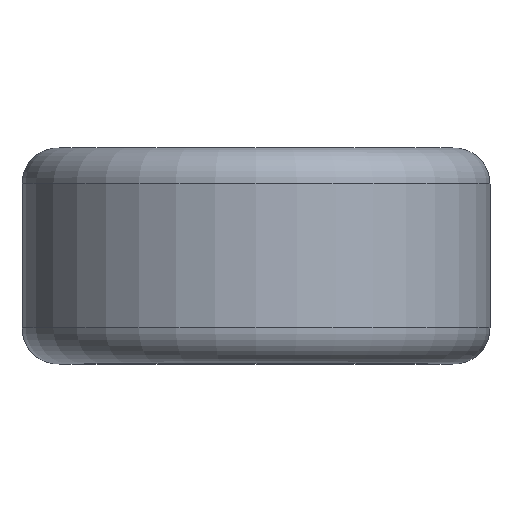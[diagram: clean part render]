
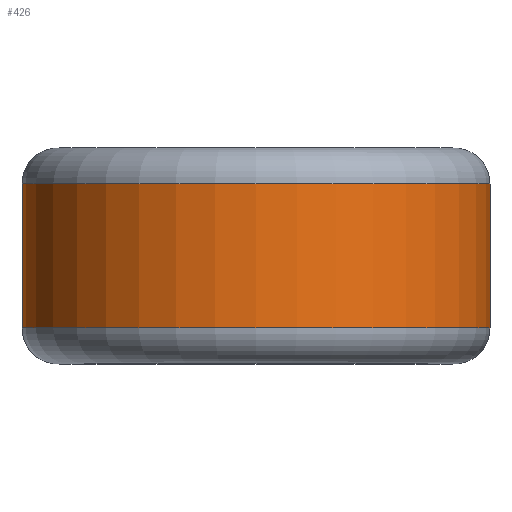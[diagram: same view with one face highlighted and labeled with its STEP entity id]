
A CAD part, top view. The second image highlights one B-rep face of the part: STEP entity #426.
In plain terms, the highlighted cylindrical face has radius 6.5 mm (diameter 13 mm), a full revolution.
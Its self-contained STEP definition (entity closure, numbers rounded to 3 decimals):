
#21=FACE_BOUND('',#104,.T.);
#22=FACE_BOUND('',#105,.T.);
#46=LINE('',#1616,#51);
#51=VECTOR('',#584,6.5);
#60=CYLINDRICAL_SURFACE('',#486,6.5);
#75=FACE_OUTER_BOUND('',#103,.T.);
#103=EDGE_LOOP('',(#329,#330,#331,#332,#333,#334,#335,#336));
#104=EDGE_LOOP('',(#337));
#105=EDGE_LOOP('',(#338));
#137=CIRCLE('',#487,6.5);
#138=CIRCLE('',#488,6.5);
#139=CIRCLE('',#489,6.5);
#140=CIRCLE('',#490,6.5);
#141=CIRCLE('',#491,6.5);
#142=CIRCLE('',#492,6.5);
#170=B_SPLINE_CURVE_WITH_KNOTS('',3,(#866,#867,#868,#869,#870,#871,#872,
#873,#874,#875,#876,#877,#878,#879,#880,#881,#882,#883),.UNSPECIFIED.,.T.,
 .F.,(4,1,1,1,1,1,1,1,1,1,1,1,1,1,1,4),(-0.344,-0.305,
-0.286,-0.266,-0.261,-0.256,
-0.247,-0.227,-0.208,-0.188,
-0.168,-0.149,-0.129,-0.11,
-0.09,-0.071),.UNSPECIFIED.);
#173=B_SPLINE_CURVE_WITH_KNOTS('',3,(#1623,#1624,#1625,#1626,#1627,#1628,
#1629,#1630,#1631,#1632,#1633,#1634,#1635,#1636,#1637),.UNSPECIFIED.,.T.,
 .F.,(4,1,1,1,1,1,1,1,1,1,1,1,4),(-0.325,-0.305,
-0.285,-0.266,-0.246,-0.227,
-0.207,-0.168,-0.129,-0.11,
-0.09,-0.081,-0.051),
 .UNSPECIFIED.);
#194=VERTEX_POINT('',#840);
#198=VERTEX_POINT('',#1609);
#199=VERTEX_POINT('',#1610);
#200=VERTEX_POINT('',#1612);
#201=VERTEX_POINT('',#1615);
#202=VERTEX_POINT('',#1617);
#203=VERTEX_POINT('',#1619);
#204=VERTEX_POINT('',#1622);
#245=EDGE_CURVE('',#194,#194,#170,.T.);
#248=EDGE_CURVE('',#198,#199,#137,.T.);
#249=EDGE_CURVE('',#200,#198,#138,.T.);
#250=EDGE_CURVE('',#199,#200,#139,.T.);
#251=EDGE_CURVE('',#199,#201,#46,.T.);
#252=EDGE_CURVE('',#202,#201,#140,.T.);
#253=EDGE_CURVE('',#203,#202,#141,.T.);
#254=EDGE_CURVE('',#201,#203,#142,.T.);
#255=EDGE_CURVE('',#204,#204,#173,.T.);
#329=ORIENTED_EDGE('',*,*,#248,.F.);
#330=ORIENTED_EDGE('',*,*,#249,.F.);
#331=ORIENTED_EDGE('',*,*,#250,.F.);
#332=ORIENTED_EDGE('',*,*,#251,.T.);
#333=ORIENTED_EDGE('',*,*,#252,.F.);
#334=ORIENTED_EDGE('',*,*,#253,.F.);
#335=ORIENTED_EDGE('',*,*,#254,.F.);
#336=ORIENTED_EDGE('',*,*,#251,.F.);
#337=ORIENTED_EDGE('',*,*,#255,.F.);
#338=ORIENTED_EDGE('',*,*,#245,.F.);
#426=ADVANCED_FACE('',(#75,#21,#22),#60,.T.);
#486=AXIS2_PLACEMENT_3D('',#1608,#576,#577);
#487=AXIS2_PLACEMENT_3D('',#1611,#578,#579);
#488=AXIS2_PLACEMENT_3D('',#1613,#580,#581);
#489=AXIS2_PLACEMENT_3D('',#1614,#582,#583);
#490=AXIS2_PLACEMENT_3D('',#1618,#585,#586);
#491=AXIS2_PLACEMENT_3D('',#1620,#587,#588);
#492=AXIS2_PLACEMENT_3D('',#1621,#589,#590);
#576=DIRECTION('center_axis',(0.,-1.,0.));
#577=DIRECTION('ref_axis',(1.,0.,0.));
#578=DIRECTION('center_axis',(0.,-1.,0.));
#579=DIRECTION('ref_axis',(-1.,0.,0.));
#580=DIRECTION('center_axis',(0.,-1.,0.));
#581=DIRECTION('ref_axis',(-1.,0.,0.));
#582=DIRECTION('center_axis',(0.,-1.,0.));
#583=DIRECTION('ref_axis',(-1.,0.,0.));
#584=DIRECTION('',(0.,1.,0.));
#585=DIRECTION('center_axis',(0.,1.,0.));
#586=DIRECTION('ref_axis',(-1.,0.,0.));
#587=DIRECTION('center_axis',(0.,1.,0.));
#588=DIRECTION('ref_axis',(-1.,0.,0.));
#589=DIRECTION('center_axis',(0.,1.,0.));
#590=DIRECTION('ref_axis',(-1.,0.,0.));
#840=CARTESIAN_POINT('',(-3.12,0.276,-5.702));
#866=CARTESIAN_POINT('Ctrl Pts',(-3.12,0.276,-5.702));
#867=CARTESIAN_POINT('Ctrl Pts',(-3.293,0.247,-5.608));
#868=CARTESIAN_POINT('Ctrl Pts',(-3.559,0.344,-5.443));
#869=CARTESIAN_POINT('Ctrl Pts',(-3.75,0.692,-5.309));
#870=CARTESIAN_POINT('Ctrl Pts',(-3.778,0.928,-5.289));
#871=CARTESIAN_POINT('Ctrl Pts',(-3.761,1.081,-5.301));
#872=CARTESIAN_POINT('Ctrl Pts',(-3.741,1.181,-5.316));
#873=CARTESIAN_POINT('Ctrl Pts',(-3.682,1.347,-5.357));
#874=CARTESIAN_POINT('Ctrl Pts',(-3.535,1.537,-5.457));
#875=CARTESIAN_POINT('Ctrl Pts',(-3.291,1.647,-5.608));
#876=CARTESIAN_POINT('Ctrl Pts',(-3.025,1.623,-5.755));
#877=CARTESIAN_POINT('Ctrl Pts',(-2.786,1.468,-5.874));
#878=CARTESIAN_POINT('Ctrl Pts',(-2.626,1.208,-5.946));
#879=CARTESIAN_POINT('Ctrl Pts',(-2.584,0.894,-5.964));
#880=CARTESIAN_POINT('Ctrl Pts',(-2.671,0.591,-5.927));
#881=CARTESIAN_POINT('Ctrl Pts',(-2.864,0.364,-5.837));
#882=CARTESIAN_POINT('Ctrl Pts',(-3.034,0.29,-5.75));
#883=CARTESIAN_POINT('Ctrl Pts',(-3.12,0.276,-5.702));
#1608=CARTESIAN_POINT('Origin',(0.,0.,
0.));
#1609=CARTESIAN_POINT('',(6.5,-2.,0.));
#1610=CARTESIAN_POINT('',(-6.5,-2.,0.));
#1611=CARTESIAN_POINT('Origin',(0.,-2.,0.));
#1612=CARTESIAN_POINT('',(0.,-2.,-6.5));
#1613=CARTESIAN_POINT('Origin',(0.,-2.,0.));
#1614=CARTESIAN_POINT('Origin',(0.,-2.,0.));
#1615=CARTESIAN_POINT('',(-6.5,2.,0.));
#1616=CARTESIAN_POINT('',(-6.5,0.,0.));
#1617=CARTESIAN_POINT('',(6.5,2.,0.));
#1618=CARTESIAN_POINT('Origin',(0.,2.,0.));
#1619=CARTESIAN_POINT('',(0.,2.,6.5));
#1620=CARTESIAN_POINT('Origin',(0.,2.,0.));
#1621=CARTESIAN_POINT('Origin',(0.,2.,0.));
#1622=CARTESIAN_POINT('',(3.12,-0.276,-5.702));
#1623=CARTESIAN_POINT('Ctrl Pts',(3.12,-0.276,-5.702));
#1624=CARTESIAN_POINT('Ctrl Pts',(3.206,-0.261,-5.655));
#1625=CARTESIAN_POINT('Ctrl Pts',(3.382,-0.277,-5.554));
#1626=CARTESIAN_POINT('Ctrl Pts',(3.606,-0.432,-5.409));
#1627=CARTESIAN_POINT('Ctrl Pts',(3.75,-0.692,-5.309));
#1628=CARTESIAN_POINT('Ctrl Pts',(3.788,-1.006,-5.282));
#1629=CARTESIAN_POINT('Ctrl Pts',(3.711,-1.309,-5.337));
#1630=CARTESIAN_POINT('Ctrl Pts',(3.477,-1.613,-5.497));
#1631=CARTESIAN_POINT('Ctrl Pts',(3.011,-1.695,-5.773));
#1632=CARTESIAN_POINT('Ctrl Pts',(2.64,-1.315,-5.94));
#1633=CARTESIAN_POINT('Ctrl Pts',(2.584,-0.894,-5.964));
#1634=CARTESIAN_POINT('Ctrl Pts',(2.656,-0.643,-5.933));
#1635=CARTESIAN_POINT('Ctrl Pts',(2.823,-0.396,-5.856));
#1636=CARTESIAN_POINT('Ctrl Pts',(2.99,-0.297,-5.773));
#1637=CARTESIAN_POINT('Ctrl Pts',(3.12,-0.276,-5.702));
